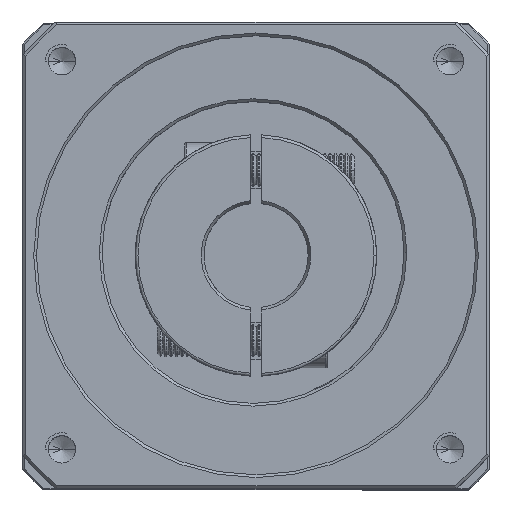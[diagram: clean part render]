
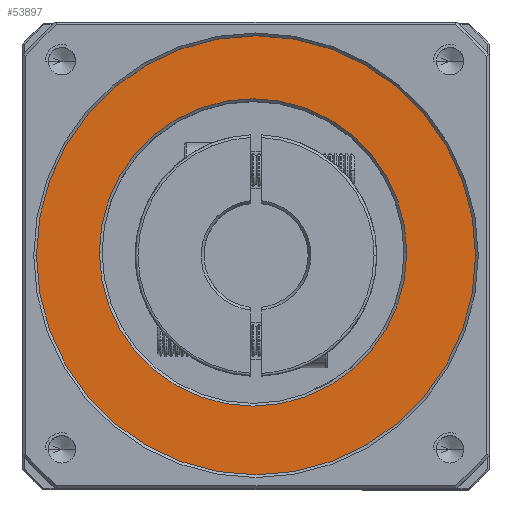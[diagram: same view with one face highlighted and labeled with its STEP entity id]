
A CAD part, top view. The second image highlights one B-rep face of the part: STEP entity #53897.
In plain terms, the highlighted planar face has unit normal (0, 0, 1).
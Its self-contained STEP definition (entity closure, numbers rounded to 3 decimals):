
#1243 = CARTESIAN_POINT ( 'NONE',  ( -88.667, 38.592, 14.807 ) ) ;
#2607 = EDGE_LOOP ( 'NONE', ( #55793, #27833 ) ) ;
#5976 = CARTESIAN_POINT ( 'NONE',  ( -116.667, 38.592, 14.807 ) ) ;
#9669 = DIRECTION ( 'NONE',  ( 1., 0., 0. ) ) ;
#14332 = DIRECTION ( 'NONE',  ( 0., 0., 1. ) ) ;
#17029 = EDGE_LOOP ( 'NONE', ( #69215, #35482 ) ) ;
#23231 = AXIS2_PLACEMENT_3D ( 'NONE', #63812, #14332, #72062 ) ;
#27833 = ORIENTED_EDGE ( 'NONE', *, *, #100591, .T. ) ;
#29193 = CARTESIAN_POINT ( 'NONE',  ( -128.125, 38.057, 14.807 ) ) ;
#29855 = DIRECTION ( 'NONE',  ( 0., 0., 1. ) ) ;
#30376 = AXIS2_PLACEMENT_3D ( 'NONE', #79262, #29855, #87453 ) ;
#30604 = PLANE ( 'NONE',  #23231 ) ;
#30641 = EDGE_CURVE ( 'NONE', #79657, #64674, #79958, .T. ) ;
#34753 = FACE_OUTER_BOUND ( 'NONE', #17029, .T. ) ;
#35179 = CARTESIAN_POINT ( 'NONE',  ( -88.125, 38.057, 14.807 ) ) ;
#35482 = ORIENTED_EDGE ( 'NONE', *, *, #88955, .T. ) ;
#39331 = DIRECTION ( 'NONE',  ( 0., 0., -1. ) ) ;
#40212 = VERTEX_POINT ( 'NONE', #29193 ) ;
#43536 = DIRECTION ( 'NONE',  ( 1., 0., 0. ) ) ;
#48225 = CIRCLE ( 'NONE', #64029, 40. ) ;
#50254 = VERTEX_POINT ( 'NONE', #80930 ) ;
#53897 = ADVANCED_FACE ( 'NONE', ( #34753, #78599 ), #30604, .T. ) ;
#55793 = ORIENTED_EDGE ( 'NONE', *, *, #30641, .T. ) ;
#59171 = DIRECTION ( 'NONE',  ( 0., 0., -1. ) ) ;
#63418 = AXIS2_PLACEMENT_3D ( 'NONE', #88508, #39331, #96613 ) ;
#63812 = CARTESIAN_POINT ( 'NONE',  ( -88.125, 38.057, 14.807 ) ) ;
#64029 = AXIS2_PLACEMENT_3D ( 'NONE', #35179, #92620, #43536 ) ;
#64674 = VERTEX_POINT ( 'NONE', #5976 ) ;
#65282 = CIRCLE ( 'NONE', #63418, 28. ) ;
#69215 = ORIENTED_EDGE ( 'NONE', *, *, #102008, .T. ) ;
#72062 = DIRECTION ( 'NONE',  ( 1., 0., 0. ) ) ;
#78599 = FACE_BOUND ( 'NONE', #2607, .T. ) ;
#79262 = CARTESIAN_POINT ( 'NONE',  ( -88.125, 38.057, 14.807 ) ) ;
#79657 = VERTEX_POINT ( 'NONE', #99283 ) ;
#79958 = CIRCLE ( 'NONE', #82352, 28. ) ;
#80930 = CARTESIAN_POINT ( 'NONE',  ( -48.125, 38.057, 14.807 ) ) ;
#82352 = AXIS2_PLACEMENT_3D ( 'NONE', #1243, #59171, #9669 ) ;
#87453 = DIRECTION ( 'NONE',  ( 1., 0., 0. ) ) ;
#88508 = CARTESIAN_POINT ( 'NONE',  ( -88.667, 38.592, 14.807 ) ) ;
#88955 = EDGE_CURVE ( 'NONE', #40212, #50254, #48225, .T. ) ;
#92620 = DIRECTION ( 'NONE',  ( 0., 0., 1. ) ) ;
#96613 = DIRECTION ( 'NONE',  ( 1., 0., 0. ) ) ;
#99283 = CARTESIAN_POINT ( 'NONE',  ( -60.667, 38.592, 14.807 ) ) ;
#100591 = EDGE_CURVE ( 'NONE', #64674, #79657, #65282, .T. ) ;
#102008 = EDGE_CURVE ( 'NONE', #50254, #40212, #105618, .T. ) ;
#105618 = CIRCLE ( 'NONE', #30376, 40. ) ;
